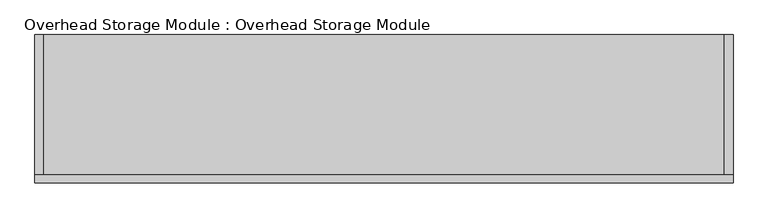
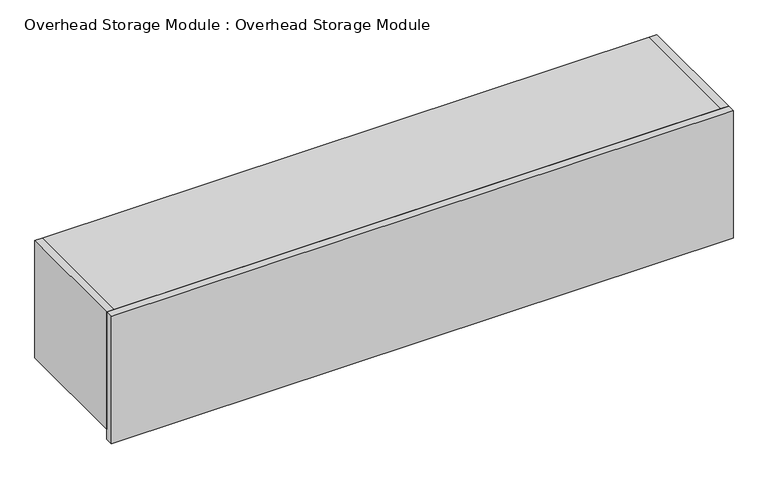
"""IFC4 building model written with IfcOpenShell, lengths in millimetres: furniture geometry, Overhead Storage Module : Overhead Storage Module."""

from ifc_helpers import new_model, si_unit, frame, origin, place, context, project, spatial, polyline, outline, extrude, source, transform, mapped, element, save


def overhead_storage_module_overhead_storage_module_326dc690(model_context):
    return source(origin(), model_context, "Body", "SweptSolid", [
        extrude(outline(polyline([(1676.4, -919.7824704), (1371.6, -919.7824704), (1371.6, -900.7324704), (1371.6, 585.1675296), (1371.6, 604.2175296), (1676.4, 604.2175296), (1676.4, 585.1675296), (1676.4, -900.7324704), (1676.4, -919.7824704)]), holes=[polyline([(1657.35, -900.7324704), (1657.35, 585.1675296), (1390.65, 585.1675296), (1390.65, -900.7324704), (1657.35, -900.7324704)])]), frame((0.0, -68.6363609, 0.0), z_axis=(0.0, 1.0, 0.0), x_axis=(0.0, 0.0, 1.0)), (0.0, 0.0, 1.0), 304.8),
        extrude(outline(polyline([(585.1675296, 217.1136391), (-900.7324704, 217.1136391), (-900.7324704, 236.1636391), (585.1675296, 236.1636391), (585.1675296, 217.1136391)])), frame((0.0, 0.0, 1390.65), z_axis=(0.0, 0.0, 1.0), x_axis=(1.0, 0.0, 0.0)), (0.0, 0.0, 1.0), 266.7),
        extrude(outline(polyline([(604.2175296, -87.6863609), (-919.7824704, -87.6863609), (-919.7824704, -68.6363609), (604.2175296, -68.6363609), (604.2175296, -87.6863609)])), frame((0.0, 0.0, 1346.2), z_axis=(0.0, 0.0, 1.0), x_axis=(1.0, 0.0, 0.0)), (0.0, 0.0, 1.0), 330.2),
    ])


if __name__ == "__main__":
    model = new_model("IFC4")
    model_context = context("Model", 3, world=origin())
    ifc_project = project(units=[si_unit("LENGTHUNIT", "METRE", prefix="MILLI")], contexts=[model_context])
    site = spatial("IfcSite", under=ifc_project)
    building = spatial("IfcBuilding", under=site)
    placement = place(None, origin())
    overhead_storage_module_overhead_storage_module_shape = overhead_storage_module_overhead_storage_module_326dc690(model_context)
    element("IfcFurniture", 1, ObjectType="Overhead Storage Module : Overhead Storage Module", at=placement, inside=building, context=model_context, shape_type="MappedRepresentation", body=[
        mapped(overhead_storage_module_overhead_storage_module_shape, transform((0.0, 0.0, 0.0), x_axis=(1.0, 0.0, 0.0), y_axis=(0.0, 1.0, 0.0), z_axis=(0.0, 0.0, 1.0))),
    ])
    save(model, "model.ifc")
